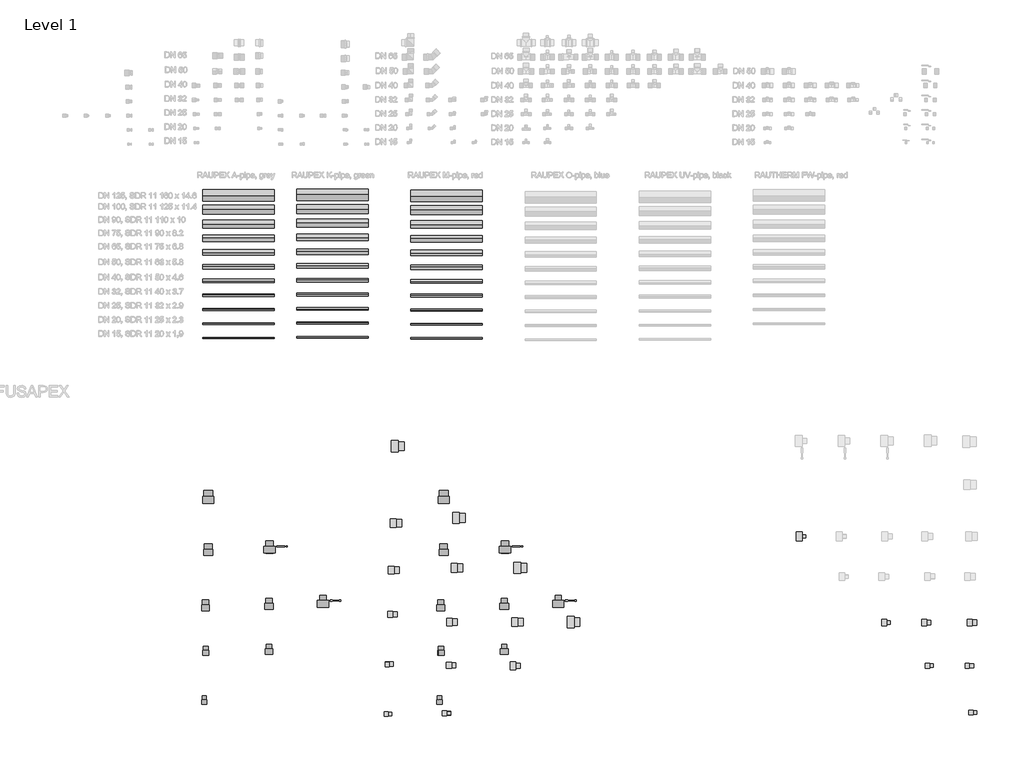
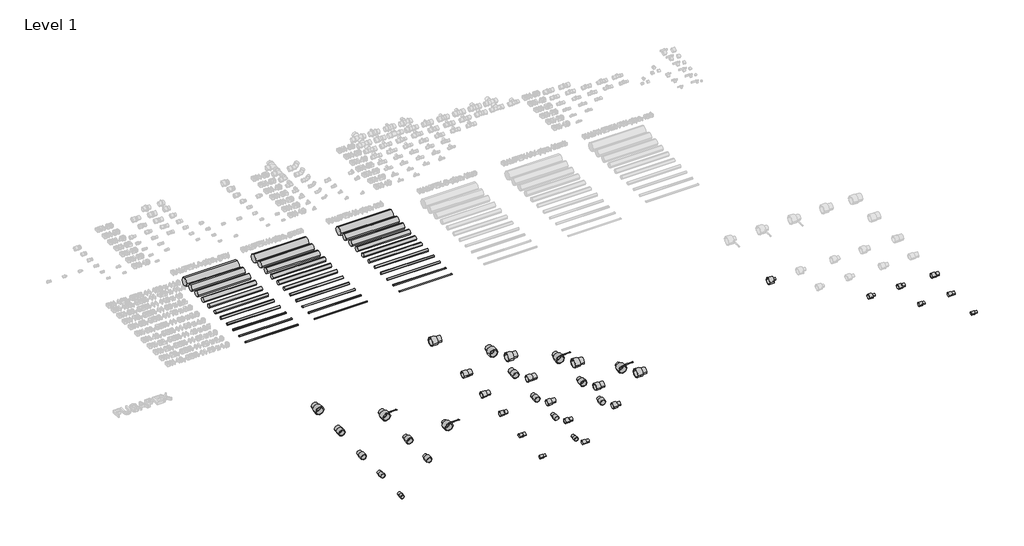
# One storey, part 1 of 16: 40 pipe fittings, 33 pipe segments.
"""IFC4 building model written with IfcOpenShell, lengths in millimetres."""

from ifc_helpers import new_model, si_unit, point, frame, frame_2d, origin, place, context, project, spatial, circle_curve, trimmed, segment, composite_curve, outline, extrude, transform, mapped, element, save
from components import r_3b0af651, r_4d965f74, r_cca8e6ca, r_d1f8ca76, r_697b0825, r_8749512e, r_a358cfd3, r_4a3a0498, r_e99f7dad, r_0a45e2a9, r_4e7d908a, r_6692c43e, r_07258758, r_f4d68c18

model = new_model("IFC4")

# Units and contexts
model_context = context("Model", 3, world=origin())
ifc_project = project(units=[si_unit("LENGTHUNIT", "METRE", prefix="MILLI")], contexts=[model_context])

# Site, building, storey
site = spatial("IfcSite", under=ifc_project)
building = spatial("IfcBuilding", under=site)
storey = spatial("IfcBuildingStorey", under=building, Name="Level 1", Elevation=0.0)

# Pipe fittings
placement = place(None, origin())
r_shape = r_3b0af651(model_context)
element("IfcPipeFitting", 1, ObjectType="FUSAPEX reducer for T-Piece : R", at=placement, inside=storey, context=model_context, shape_type="MappedRepresentation", body=[
    mapped(r_shape, transform((11613.2068187, -7375.7319843, 0.0), x_axis=(0.0, 1.0, 0.0), y_axis=(-1.0, 0.0, 0.0), z_axis=(0.0, 0.0, 1.0))),
])
element("IfcPipeFitting", 2, ObjectType="FUSAPEX reducer for T-Piece : R", at=placement, inside=storey, context=model_context, shape_type="MappedRepresentation", body=[
    mapped(r_shape, transform((14913.2068187, -7375.7319843, 0.0), x_axis=(0.0, 1.0, 0.0), y_axis=(-1.0, 0.0, 0.0), z_axis=(0.0, 0.0, 1.0))),
])
element("IfcPipeFitting", 3, ObjectType="FUSAPEX reducer for T-Piece : R", at=placement, inside=storey, context=model_context, shape_type="MappedRepresentation", body=[
    mapped(r_shape, transform((15011.2068187, -7565.7319843, 0.0), x_axis=(1.0, 0.0, 0.0), y_axis=(0.0, 1.0, 0.0), z_axis=(0.0, 0.0, 1.0))),
])
element("IfcPipeFitting", 4, ObjectType="FUSAPEX reducer for T-Piece : R", at=placement, inside=storey, context=model_context, shape_type="MappedRepresentation", body=[
    mapped(r_shape, transform((14210.3595402, -6877.3095627, 0.0), x_axis=(1.0, 0.0, 0.0), y_axis=(0.0, 1.0, 0.0), z_axis=(0.0, 0.0, 1.0))),
])
r_2_shape = r_4d965f74(model_context)
element("IfcPipeFitting", 5, ObjectType="FUSAPEX reducer for T-Piece : R", at=placement, inside=storey, context=model_context, shape_type="MappedRepresentation", body=[
    mapped(r_2_shape, transform((11634.5063472, -6684.2472313, 0.0), x_axis=(0.0, 1.0, 0.0), y_axis=(-1.0, 0.0, 0.0), z_axis=(0.0, 0.0, 1.0))),
])
element("IfcPipeFitting", 6, ObjectType="FUSAPEX reducer for T-Piece : R", at=placement, inside=storey, context=model_context, shape_type="MappedRepresentation", body=[
    mapped(r_2_shape, transform((14934.5063472, -6684.2472313, 0.0), x_axis=(0.0, 1.0, 0.0), y_axis=(-1.0, 0.0, 0.0), z_axis=(0.0, 0.0, 1.0))),
])
element("IfcPipeFitting", 7, ObjectType="FUSAPEX reducer for T-Piece : R", at=placement, inside=storey, context=model_context, shape_type="MappedRepresentation", body=[
    mapped(r_2_shape, transform((15081.5063472, -6892.2472313, 0.0), x_axis=(1.0, 0.0, 0.0), y_axis=(0.0, 1.0, 0.0), z_axis=(0.0, 0.0, 1.0))),
])
element("IfcPipeFitting", 8, ObjectType="FUSAPEX reducer for T-Piece : R", at=placement, inside=storey, context=model_context, shape_type="MappedRepresentation", body=[
    mapped(r_2_shape, transform((14259.3595402, -6177.3095627, 0.0), x_axis=(1.0, 0.0, 0.0), y_axis=(0.0, 1.0, 0.0), z_axis=(0.0, 0.0, 1.0))),
])
r_3_shape = r_cca8e6ca(model_context)
element("IfcPipeFitting", 9, ObjectType="FUSAPEX reducer for T-Piece : R", at=placement, inside=storey, context=model_context, shape_type="MappedRepresentation", body=[
    mapped(r_3_shape, transform((12520.8913534, -6660.8870027, 0.0), x_axis=(0.0, 1.0, 0.0), y_axis=(-1.0, 0.0, 0.0), z_axis=(0.0, 0.0, 1.0))),
])
element("IfcPipeFitting", 10, ObjectType="FUSAPEX reducer for T-Piece : R", at=placement, inside=storey, context=model_context, shape_type="MappedRepresentation", body=[
    mapped(r_3_shape, transform((15820.8913534, -6660.8870027, 0.0), x_axis=(0.0, 1.0, 0.0), y_axis=(-1.0, 0.0, 0.0), z_axis=(0.0, 0.0, 1.0))),
])
element("IfcPipeFitting", 11, ObjectType="FUSAPEX reducer for T-Piece : R", at=placement, inside=storey, context=model_context, shape_type="MappedRepresentation", body=[
    mapped(r_3_shape, transform((15983.8913534, -6899.8870027, 0.0), x_axis=(1.0, 0.0, 0.0), y_axis=(0.0, 1.0, 0.0), z_axis=(0.0, 0.0, 1.0))),
])
r_4_shape = r_d1f8ca76(model_context)
element("IfcPipeFitting", 12, ObjectType="FUSAPEX reducer for T-Piece : R", at=placement, inside=storey, context=model_context, shape_type="MappedRepresentation", body=[
    mapped(r_4_shape, transform((11630.5649543, -6046.7319843, 0.0), x_axis=(0.0, 1.0, 0.0), y_axis=(-1.0, 0.0, 0.0), z_axis=(0.0, 0.0, 1.0))),
])
element("IfcPipeFitting", 13, ObjectType="FUSAPEX reducer for T-Piece : R", at=placement, inside=storey, context=model_context, shape_type="MappedRepresentation", body=[
    mapped(r_4_shape, transform((14930.5649543, -6046.7319843, 0.0), x_axis=(0.0, 1.0, 0.0), y_axis=(-1.0, 0.0, 0.0), z_axis=(0.0, 0.0, 1.0))),
])
element("IfcPipeFitting", 14, ObjectType="FUSAPEX reducer for T-Piece : R", at=placement, inside=storey, context=model_context, shape_type="MappedRepresentation", body=[
    mapped(r_4_shape, transform((15093.5649543, -6285.7319843, 0.0), x_axis=(1.0, 0.0, 0.0), y_axis=(0.0, 1.0, 0.0), z_axis=(0.0, 0.0, 1.0))),
])
element("IfcPipeFitting", 15, ObjectType="FUSAPEX reducer for T-Piece : R", at=placement, inside=storey, context=model_context, shape_type="MappedRepresentation", body=[
    mapped(r_4_shape, transform((14275.3595402, -5557.3095627, 0.0), x_axis=(1.0, 0.0, 0.0), y_axis=(0.0, 1.0, 0.0), z_axis=(0.0, 0.0, 1.0))),
])
r_5_shape = r_697b0825(model_context)
element("IfcPipeFitting", 16, ObjectType="FUSAPEX reducer for T-Piece : R", at=placement, inside=storey, context=model_context, shape_type="MappedRepresentation", body=[
    mapped(r_5_shape, transform((12520.2194418, -6025.7319843, 0.0), x_axis=(0.0, 1.0, 0.0), y_axis=(-1.0, 0.0, 0.0), z_axis=(0.0, 0.0, 1.0))),
])
element("IfcPipeFitting", 17, ObjectType="FUSAPEX reducer for T-Piece : R", at=placement, inside=storey, context=model_context, shape_type="MappedRepresentation", body=[
    mapped(r_5_shape, transform((15820.2194418, -6025.7319843, 0.0), x_axis=(0.0, 1.0, 0.0), y_axis=(-1.0, 0.0, 0.0), z_axis=(0.0, 0.0, 1.0))),
])
r_6_shape = r_8749512e(model_context)
element("IfcPipeFitting", 18, ObjectType="FUSAPEX reducer for T-Piece : R", at=placement, inside=storey, context=model_context, shape_type="MappedRepresentation", body=[
    mapped(r_6_shape, transform((13278.3151183, -5984.1319843, 0.0), x_axis=(0.0, 1.0, 0.0), y_axis=(-1.0, 0.0, 0.0), z_axis=(0.0, 0.0, 1.0))),
])
element("IfcPipeFitting", 19, ObjectType="FUSAPEX reducer for T-Piece : R", at=placement, inside=storey, context=model_context, shape_type="MappedRepresentation", body=[
    mapped(r_6_shape, transform((16578.3151183, -5984.1319843, 0.0), x_axis=(0.0, 1.0, 0.0), y_axis=(-1.0, 0.0, 0.0), z_axis=(0.0, 0.0, 1.0))),
])
r_7_shape = r_a358cfd3(model_context)
element("IfcPipeFitting", 20, ObjectType="FUSAPEX reducer for T-Piece : R", at=placement, inside=storey, context=model_context, shape_type="MappedRepresentation", body=[
    mapped(r_7_shape, transform((11670.5649543, -5265.7319843, 0.0), x_axis=(0.0, 1.0, 0.0), y_axis=(-1.0, 0.0, 0.0), z_axis=(0.0, 0.0, 1.0))),
])
element("IfcPipeFitting", 21, ObjectType="FUSAPEX reducer for T-Piece : R", at=placement, inside=storey, context=model_context, shape_type="MappedRepresentation", body=[
    mapped(r_7_shape, transform((14970.5649543, -5265.7319843, 0.0), x_axis=(0.0, 1.0, 0.0), y_axis=(-1.0, 0.0, 0.0), z_axis=(0.0, 0.0, 1.0))),
])
element("IfcPipeFitting", 22, ObjectType="FUSAPEX reducer for T-Piece : R", at=placement, inside=storey, context=model_context, shape_type="MappedRepresentation", body=[
    mapped(r_7_shape, transform((16011.2194418, -6285.7319843, 0.0), x_axis=(1.0, 0.0, 0.0), y_axis=(0.0, 1.0, 0.0), z_axis=(0.0, 0.0, 1.0))),
])
element("IfcPipeFitting", 23, ObjectType="FUSAPEX reducer for T-Piece : R", at=placement, inside=storey, context=model_context, shape_type="MappedRepresentation", body=[
    mapped(r_7_shape, transform((15161.5649543, -5525.7319843, 0.0), x_axis=(1.0, 0.0, 0.0), y_axis=(0.0, 1.0, 0.0), z_axis=(0.0, 0.0, 1.0))),
])
element("IfcPipeFitting", 24, ObjectType="FUSAPEX reducer for T-Piece : R", at=placement, inside=storey, context=model_context, shape_type="MappedRepresentation", body=[
    mapped(r_7_shape, transform((14303.3595402, -4897.3095627, 0.0), x_axis=(1.0, 0.0, 0.0), y_axis=(0.0, 1.0, 0.0), z_axis=(0.0, 0.0, 1.0))),
])
r_8_shape = r_4a3a0498(model_context)
element("IfcPipeFitting", 25, ObjectType="FUSAPEX reducer for T-Piece : R", at=placement, inside=storey, context=model_context, shape_type="MappedRepresentation", body=[
    mapped(r_8_shape, transform((12530.5649543, -5224.1319843, 0.0), x_axis=(0.0, 1.0, 0.0), y_axis=(-1.0, 0.0, 0.0), z_axis=(0.0, 0.0, 1.0))),
])
element("IfcPipeFitting", 26, ObjectType="FUSAPEX reducer for T-Piece : R", at=placement, inside=storey, context=model_context, shape_type="MappedRepresentation", body=[
    mapped(r_8_shape, transform((15830.5649543, -5224.1319843, 0.0), x_axis=(0.0, 1.0, 0.0), y_axis=(-1.0, 0.0, 0.0), z_axis=(0.0, 0.0, 1.0))),
])
r_9_shape = r_e99f7dad(model_context)
element("IfcPipeFitting", 27, ObjectType="FUSAPEX reducer for T-Piece : R", at=placement, inside=storey, context=model_context, shape_type="MappedRepresentation", body=[
    mapped(r_9_shape, transform((11670.5649543, -4524.1319843, 0.0), x_axis=(0.0, 1.0, 0.0), y_axis=(-1.0, 0.0, 0.0), z_axis=(0.0, 0.0, 1.0))),
])
element("IfcPipeFitting", 28, ObjectType="FUSAPEX reducer for T-Piece : R", at=placement, inside=storey, context=model_context, shape_type="MappedRepresentation", body=[
    mapped(r_9_shape, transform((14970.5649543, -4524.1319843, 0.0), x_axis=(0.0, 1.0, 0.0), y_axis=(-1.0, 0.0, 0.0), z_axis=(0.0, 0.0, 1.0))),
])
element("IfcPipeFitting", 29, ObjectType="FUSAPEX reducer for T-Piece : R", at=placement, inside=storey, context=model_context, shape_type="MappedRepresentation", body=[
    mapped(r_9_shape, transform((16798.6151183, -6285.7319843, 0.0), x_axis=(1.0, 0.0, 0.0), y_axis=(0.0, 1.0, 0.0), z_axis=(0.0, 0.0, 1.0))),
])
element("IfcPipeFitting", 30, ObjectType="FUSAPEX reducer for T-Piece : R", at=placement, inside=storey, context=model_context, shape_type="MappedRepresentation", body=[
    mapped(r_9_shape, transform((16050.8649543, -5525.7319843, 0.0), x_axis=(1.0, 0.0, 0.0), y_axis=(0.0, 1.0, 0.0), z_axis=(0.0, 0.0, 1.0))),
])
element("IfcPipeFitting", 31, ObjectType="FUSAPEX reducer for T-Piece : R", at=placement, inside=storey, context=model_context, shape_type="MappedRepresentation", body=[
    mapped(r_9_shape, transform((15190.8649543, -4825.7319843, 0.0), x_axis=(1.0, 0.0, 0.0), y_axis=(0.0, 1.0, 0.0), z_axis=(0.0, 0.0, 1.0))),
])
element("IfcPipeFitting", 32, ObjectType="FUSAPEX reducer for T-Piece : R", at=placement, inside=storey, context=model_context, shape_type="MappedRepresentation", body=[
    mapped(r_9_shape, transform((14332.6595402, -3817.3095627, 0.0), x_axis=(1.0, 0.0, 0.0), y_axis=(0.0, 1.0, 0.0), z_axis=(0.0, 0.0, 1.0))),
])
r_10_shape = r_0a45e2a9(model_context)
element("IfcPipeFitting", 33, ObjectType="FUSAPEX reducer for T-Piece : R", at=placement, inside=storey, context=model_context, shape_type="MappedRepresentation", body=[
    mapped(r_10_shape, transform((14195.8595402, -7577.3095627, 0.0), x_axis=(1.0, 0.0, 0.0), y_axis=(0.0, 1.0, 0.0), z_axis=(0.0, 0.0, 1.0))),
])
element("IfcPipeFitting", 34, ObjectType="FUSAPEX reducer : R", at=placement, inside=storey, context=model_context, shape_type="MappedRepresentation", body=[
    mapped(r_10_shape, transform((22393.3151183, -7556.0259818, 0.0), x_axis=(1.0, 0.0, 0.0), y_axis=(0.0, 1.0, 0.0), z_axis=(0.0, 0.0, 1.0))),
])
r_11_shape = r_4e7d908a(model_context)
element("IfcPipeFitting", 35, ObjectType="FUSAPEX reducer : R", at=placement, inside=storey, context=model_context, shape_type="MappedRepresentation", body=[
    mapped(r_11_shape, transform((21783.3151183, -6899.3040649, 0.0), x_axis=(1.0, 0.0, 0.0), y_axis=(0.0, 1.0, 0.0), z_axis=(0.0, 0.0, 1.0))),
])
element("IfcPipeFitting", 36, ObjectType="FUSAPEX reducer : R", at=placement, inside=storey, context=model_context, shape_type="MappedRepresentation", body=[
    mapped(r_shape, transform((22343.3151183, -6899.3040649, 0.0), x_axis=(1.0, 0.0, 0.0), y_axis=(0.0, 1.0, 0.0), z_axis=(0.0, 0.0, 1.0))),
])
r_12_shape = r_6692c43e(model_context)
element("IfcPipeFitting", 37, ObjectType="FUSAPEX reducer : R", at=placement, inside=storey, context=model_context, shape_type="MappedRepresentation", body=[
    mapped(r_12_shape, transform((21185.8004526, -6292.9297293, 0.0), x_axis=(1.0, 0.0, 0.0), y_axis=(0.0, 1.0, 0.0), z_axis=(0.0, 0.0, 1.0))),
])
r_13_shape = r_07258758(model_context)
element("IfcPipeFitting", 38, ObjectType="FUSAPEX reducer : R", at=placement, inside=storey, context=model_context, shape_type="MappedRepresentation", body=[
    mapped(r_13_shape, transform((21745.8004526, -6292.9297293, 0.0), x_axis=(1.0, 0.0, 0.0), y_axis=(0.0, 1.0, 0.0), z_axis=(0.0, 0.0, 1.0))),
])
element("IfcPipeFitting", 39, ObjectType="FUSAPEX reducer : R", at=placement, inside=storey, context=model_context, shape_type="MappedRepresentation", body=[
    mapped(r_2_shape, transform((22385.8004526, -6292.9297293, 0.0), x_axis=(1.0, 0.0, 0.0), y_axis=(0.0, 1.0, 0.0), z_axis=(0.0, 0.0, 1.0))),
])
r_14_shape = r_f4d68c18(model_context)
element("IfcPipeFitting", 40, ObjectType="FUSAPEX reducer : R", at=placement, inside=storey, context=model_context, shape_type="MappedRepresentation", body=[
    mapped(r_14_shape, transform((19996.3378467, -5084.3927472, 0.0), x_axis=(1.0, 0.0, 0.0), y_axis=(0.0, 1.0, 0.0), z_axis=(0.0, 0.0, 1.0))),
])

# Pipe segments
element("IfcPipeSegment", 41, ObjectType="RAUPEX-A Rohr, SDR11, grau bar", at=placement, inside=storey, context=model_context, shape_type="SweptSolid", body=[
    extrude(outline(composite_curve([segment(trimmed(circle_curve(frame_2d((-2300.9373535, 0.0)), 10.0), [point((-2310.9373535, 0.0))], [point((-2300.9373535, 10.0))], False, "CARTESIAN"), True, "CONTINUOUS"), segment(trimmed(circle_curve(frame_2d((-2300.9373535, 0.0)), 10.0), [point((-2300.9373535, 10.0))], [point((-2290.9373535, 0.0))], False, "CARTESIAN"), True, "CONTINUOUS"), segment(trimmed(circle_curve(frame_2d((-2300.9373535, 0.0)), 10.0), [point((-2290.9373535, 0.0))], [point((-2300.9373535, -10.0))], False, "CARTESIAN"), True, "CONTINUOUS"), segment(trimmed(circle_curve(frame_2d((-2300.9373535, 0.0)), 10.0), [point((-2300.9373535, -10.0))], [point((-2310.9373535, 0.0))], False, "CARTESIAN"), True, "CONTINUOUS")], self_intersect=False)), frame((11592.3595402, 0.0, 0.0), z_axis=(1.0, 0.0, 0.0), x_axis=(0.0, 1.0, 0.0)), (0.0, 0.0, 1.0), 1000.0),
])
element("IfcPipeSegment", 42, ObjectType="RAUPEX-A Rohr, SDR11, grau bar", at=placement, inside=storey, context=model_context, shape_type="SweptSolid", body=[
    extrude(outline(composite_curve([segment(trimmed(circle_curve(frame_2d((-2100.9373535, 0.0)), 12.5), [point((-2113.4373535, 0.0))], [point((-2100.9373535, 12.5))], False, "CARTESIAN"), True, "CONTINUOUS"), segment(trimmed(circle_curve(frame_2d((-2100.9373535, 0.0)), 12.5), [point((-2100.9373535, 12.5))], [point((-2088.4373535, 0.0))], False, "CARTESIAN"), True, "CONTINUOUS"), segment(trimmed(circle_curve(frame_2d((-2100.9373535, 0.0)), 12.5), [point((-2088.4373535, 0.0))], [point((-2100.9373535, -12.5))], False, "CARTESIAN"), True, "CONTINUOUS"), segment(trimmed(circle_curve(frame_2d((-2100.9373535, 0.0)), 12.5), [point((-2100.9373535, -12.5))], [point((-2113.4373535, 0.0))], False, "CARTESIAN"), True, "CONTINUOUS")], self_intersect=False)), frame((11592.3595402, 0.0, 0.0), z_axis=(1.0, 0.0, 0.0), x_axis=(0.0, 1.0, 0.0)), (0.0, 0.0, 1.0), 1000.0),
])
element("IfcPipeSegment", 43, ObjectType="RAUPEX-A Rohr, SDR11, grau bar", at=placement, inside=storey, context=model_context, shape_type="SweptSolid", body=[
    extrude(outline(composite_curve([segment(trimmed(circle_curve(frame_2d((-1900.9373535, 0.0)), 16.0), [point((-1916.9373535, 0.0))], [point((-1900.9373535, 16.0))], False, "CARTESIAN"), True, "CONTINUOUS"), segment(trimmed(circle_curve(frame_2d((-1900.9373535, 0.0)), 16.0), [point((-1900.9373535, 16.0))], [point((-1884.9373535, 0.0))], False, "CARTESIAN"), True, "CONTINUOUS"), segment(trimmed(circle_curve(frame_2d((-1900.9373535, 0.0)), 16.0), [point((-1884.9373535, 0.0))], [point((-1900.9373535, -16.0))], False, "CARTESIAN"), True, "CONTINUOUS"), segment(trimmed(circle_curve(frame_2d((-1900.9373535, 0.0)), 16.0), [point((-1900.9373535, -16.0))], [point((-1916.9373535, 0.0))], False, "CARTESIAN"), True, "CONTINUOUS")], self_intersect=False)), frame((11592.3595402, 0.0, 0.0), z_axis=(1.0, 0.0, 0.0), x_axis=(0.0, 1.0, 0.0)), (0.0, 0.0, 1.0), 1000.0),
])
element("IfcPipeSegment", 44, ObjectType="RAUPEX-A Rohr, SDR11, grau bar", at=placement, inside=storey, context=model_context, shape_type="SweptSolid", body=[
    extrude(outline(composite_curve([segment(trimmed(circle_curve(frame_2d((-1700.9373535, 0.0)), 20.0), [point((-1720.9373535, 0.0))], [point((-1700.9373535, 20.0))], False, "CARTESIAN"), True, "CONTINUOUS"), segment(trimmed(circle_curve(frame_2d((-1700.9373535, 0.0)), 20.0), [point((-1700.9373535, 20.0))], [point((-1680.9373535, 0.0))], False, "CARTESIAN"), True, "CONTINUOUS"), segment(trimmed(circle_curve(frame_2d((-1700.9373535, 0.0)), 20.0), [point((-1680.9373535, 0.0))], [point((-1700.9373535, -20.0))], False, "CARTESIAN"), True, "CONTINUOUS"), segment(trimmed(circle_curve(frame_2d((-1700.9373535, 0.0)), 20.0), [point((-1700.9373535, -20.0))], [point((-1720.9373535, 0.0))], False, "CARTESIAN"), True, "CONTINUOUS")], self_intersect=False)), frame((11592.3595402, 0.0, 0.0), z_axis=(1.0, 0.0, 0.0), x_axis=(0.0, 1.0, 0.0)), (0.0, 0.0, 1.0), 1000.0),
])
element("IfcPipeSegment", 45, ObjectType="RAUPEX-A Rohr, SDR11, grau bar", at=placement, inside=storey, context=model_context, shape_type="SweptSolid", body=[
    extrude(outline(composite_curve([segment(trimmed(circle_curve(frame_2d((-1500.9373535, 0.0)), 25.0), [point((-1525.9373535, 0.0))], [point((-1500.9373535, 25.0))], False, "CARTESIAN"), True, "CONTINUOUS"), segment(trimmed(circle_curve(frame_2d((-1500.9373535, 0.0)), 25.0), [point((-1500.9373535, 25.0))], [point((-1475.9373535, 0.0))], False, "CARTESIAN"), True, "CONTINUOUS"), segment(trimmed(circle_curve(frame_2d((-1500.9373535, 0.0)), 25.0), [point((-1475.9373535, 0.0))], [point((-1500.9373535, -25.0))], False, "CARTESIAN"), True, "CONTINUOUS"), segment(trimmed(circle_curve(frame_2d((-1500.9373535, 0.0)), 25.0), [point((-1500.9373535, -25.0))], [point((-1525.9373535, 0.0))], False, "CARTESIAN"), True, "CONTINUOUS")], self_intersect=False)), frame((11592.3595402, 0.0, 0.0), z_axis=(1.0, 0.0, 0.0), x_axis=(0.0, 1.0, 0.0)), (0.0, 0.0, 1.0), 1000.0),
])
element("IfcPipeSegment", 46, ObjectType="RAUPEX-A Rohr, SDR11, grau bar", at=placement, inside=storey, context=model_context, shape_type="SweptSolid", body=[
    extrude(outline(composite_curve([segment(trimmed(circle_curve(frame_2d((-1300.9373535, 0.0)), 31.5), [point((-1332.4373535, 0.0))], [point((-1300.9373535, 31.5))], False, "CARTESIAN"), True, "CONTINUOUS"), segment(trimmed(circle_curve(frame_2d((-1300.9373535, 0.0)), 31.5), [point((-1300.9373535, 31.5))], [point((-1269.4373535, 0.0))], False, "CARTESIAN"), True, "CONTINUOUS"), segment(trimmed(circle_curve(frame_2d((-1300.9373535, 0.0)), 31.5), [point((-1269.4373535, 0.0))], [point((-1300.9373535, -31.5))], False, "CARTESIAN"), True, "CONTINUOUS"), segment(trimmed(circle_curve(frame_2d((-1300.9373535, 0.0)), 31.5), [point((-1300.9373535, -31.5))], [point((-1332.4373535, 0.0))], False, "CARTESIAN"), True, "CONTINUOUS")], self_intersect=False)), frame((11592.3595402, 0.0, 0.0), z_axis=(1.0, 0.0, 0.0), x_axis=(0.0, 1.0, 0.0)), (0.0, 0.0, 1.0), 1000.0),
])
element("IfcPipeSegment", 47, ObjectType="RAUPEX-A Rohr, SDR11, grau bar", at=placement, inside=storey, context=model_context, shape_type="SweptSolid", body=[
    extrude(outline(composite_curve([segment(trimmed(circle_curve(frame_2d((-1100.9373535, 0.0)), 37.5), [point((-1138.4373535, 0.0))], [point((-1100.9373535, 37.5))], False, "CARTESIAN"), True, "CONTINUOUS"), segment(trimmed(circle_curve(frame_2d((-1100.9373535, 0.0)), 37.5), [point((-1100.9373535, 37.5))], [point((-1063.4373535, 0.0))], False, "CARTESIAN"), True, "CONTINUOUS"), segment(trimmed(circle_curve(frame_2d((-1100.9373535, 0.0)), 37.5), [point((-1063.4373535, 0.0))], [point((-1100.9373535, -37.5))], False, "CARTESIAN"), True, "CONTINUOUS"), segment(trimmed(circle_curve(frame_2d((-1100.9373535, 0.0)), 37.5), [point((-1100.9373535, -37.5))], [point((-1138.4373535, 0.0))], False, "CARTESIAN"), True, "CONTINUOUS")], self_intersect=False)), frame((11592.3595402, 0.0, 0.0), z_axis=(1.0, 0.0, 0.0), x_axis=(0.0, 1.0, 0.0)), (0.0, 0.0, 1.0), 1000.0),
])
element("IfcPipeSegment", 48, ObjectType="RAUPEX-A Rohr, SDR11, grau bar", at=placement, inside=storey, context=model_context, shape_type="SweptSolid", body=[
    extrude(outline(composite_curve([segment(trimmed(circle_curve(frame_2d((-900.9373535, 0.0)), 45.0), [point((-945.9373535, 0.0))], [point((-900.9373535, 45.0))], False, "CARTESIAN"), True, "CONTINUOUS"), segment(trimmed(circle_curve(frame_2d((-900.9373535, 0.0)), 45.0), [point((-900.9373535, 45.0))], [point((-855.9373535, 0.0))], False, "CARTESIAN"), True, "CONTINUOUS"), segment(trimmed(circle_curve(frame_2d((-900.9373535, 0.0)), 45.0), [point((-855.9373535, 0.0))], [point((-900.9373535, -45.0))], False, "CARTESIAN"), True, "CONTINUOUS"), segment(trimmed(circle_curve(frame_2d((-900.9373535, 0.0)), 45.0), [point((-900.9373535, -45.0))], [point((-945.9373535, 0.0))], False, "CARTESIAN"), True, "CONTINUOUS")], self_intersect=False)), frame((11592.3595402, 0.0, 0.0), z_axis=(1.0, 0.0, 0.0), x_axis=(0.0, 1.0, 0.0)), (0.0, 0.0, 1.0), 1000.0),
])
element("IfcPipeSegment", 49, ObjectType="RAUPEX-A Rohr, SDR11, grau bar", at=placement, inside=storey, context=model_context, shape_type="SweptSolid", body=[
    extrude(outline(composite_curve([segment(trimmed(circle_curve(frame_2d((-700.9373535, 0.0)), 55.0), [point((-755.9373535, 0.0))], [point((-700.9373535, 55.0))], False, "CARTESIAN"), True, "CONTINUOUS"), segment(trimmed(circle_curve(frame_2d((-700.9373535, 0.0)), 55.0), [point((-700.9373535, 55.0))], [point((-645.9373535, 0.0))], False, "CARTESIAN"), True, "CONTINUOUS"), segment(trimmed(circle_curve(frame_2d((-700.9373535, 0.0)), 55.0), [point((-645.9373535, 0.0))], [point((-700.9373535, -55.0))], False, "CARTESIAN"), True, "CONTINUOUS"), segment(trimmed(circle_curve(frame_2d((-700.9373535, 0.0)), 55.0), [point((-700.9373535, -55.0))], [point((-755.9373535, 0.0))], False, "CARTESIAN"), True, "CONTINUOUS")], self_intersect=False)), frame((11592.3595402, 0.0, 0.0), z_axis=(1.0, 0.0, 0.0), x_axis=(0.0, 1.0, 0.0)), (0.0, 0.0, 1.0), 1000.0),
])
element("IfcPipeSegment", 50, ObjectType="RAUPEX-A Rohr, SDR11, grau bar", at=placement, inside=storey, context=model_context, shape_type="SweptSolid", body=[
    extrude(outline(composite_curve([segment(trimmed(circle_curve(frame_2d((-500.9373535, 0.0)), 62.5), [point((-563.4373535, 0.0))], [point((-500.9373535, 62.5))], False, "CARTESIAN"), True, "CONTINUOUS"), segment(trimmed(circle_curve(frame_2d((-500.9373535, 0.0)), 62.5), [point((-500.9373535, 62.5))], [point((-438.4373535, 0.0))], False, "CARTESIAN"), True, "CONTINUOUS"), segment(trimmed(circle_curve(frame_2d((-500.9373535, 0.0)), 62.5), [point((-438.4373535, 0.0))], [point((-500.9373535, -62.5))], False, "CARTESIAN"), True, "CONTINUOUS"), segment(trimmed(circle_curve(frame_2d((-500.9373535, 0.0)), 62.5), [point((-500.9373535, -62.5))], [point((-563.4373535, 0.0))], False, "CARTESIAN"), True, "CONTINUOUS")], self_intersect=False)), frame((11592.3595402, 0.0, 0.0), z_axis=(1.0, 0.0, 0.0), x_axis=(0.0, 1.0, 0.0)), (0.0, 0.0, 1.0), 1000.0),
])
element("IfcPipeSegment", 51, ObjectType="RAUPEX-A Rohr, SDR11, grau bar", at=placement, inside=storey, context=model_context, shape_type="SweptSolid", body=[
    extrude(outline(composite_curve([segment(trimmed(circle_curve(frame_2d((-300.9373535, 0.0)), 80.0), [point((-380.9373535, 0.0))], [point((-300.9373535, 80.0))], False, "CARTESIAN"), True, "CONTINUOUS"), segment(trimmed(circle_curve(frame_2d((-300.9373535, 0.0)), 80.0), [point((-300.9373535, 80.0))], [point((-220.9373535, 0.0))], False, "CARTESIAN"), True, "CONTINUOUS"), segment(trimmed(circle_curve(frame_2d((-300.9373535, 0.0)), 80.0), [point((-220.9373535, 0.0))], [point((-300.9373535, -80.0))], False, "CARTESIAN"), True, "CONTINUOUS"), segment(trimmed(circle_curve(frame_2d((-300.9373535, 0.0)), 80.0), [point((-300.9373535, -80.0))], [point((-380.9373535, 0.0))], False, "CARTESIAN"), True, "CONTINUOUS")], self_intersect=False)), frame((11592.3595402, 0.0, 0.0), z_axis=(1.0, 0.0, 0.0), x_axis=(0.0, 1.0, 0.0)), (0.0, 0.0, 1.0), 1000.0),
])
element("IfcPipeSegment", 52, ObjectType="RAUPEX-K Rohr, SDR11, grün bar", at=placement, inside=storey, context=model_context, shape_type="SweptSolid", body=[
    extrude(outline(composite_curve([segment(trimmed(circle_curve(frame_2d((-2290.9373535, 0.0)), 10.0), [point((-2300.9373535, 0.0))], [point((-2290.9373535, 10.0))], False, "CARTESIAN"), True, "CONTINUOUS"), segment(trimmed(circle_curve(frame_2d((-2290.9373535, 0.0)), 10.0), [point((-2290.9373535, 10.0))], [point((-2280.9373535, 0.0))], False, "CARTESIAN"), True, "CONTINUOUS"), segment(trimmed(circle_curve(frame_2d((-2290.9373535, 0.0)), 10.0), [point((-2280.9373535, 0.0))], [point((-2290.9373535, -10.0))], False, "CARTESIAN"), True, "CONTINUOUS"), segment(trimmed(circle_curve(frame_2d((-2290.9373535, 0.0)), 10.0), [point((-2290.9373535, -10.0))], [point((-2300.9373535, 0.0))], False, "CARTESIAN"), True, "CONTINUOUS")], self_intersect=False)), frame((12912.3595402, 0.0, 0.0), z_axis=(1.0, 0.0, 0.0), x_axis=(0.0, 1.0, 0.0)), (0.0, 0.0, 1.0), 1000.0),
])
element("IfcPipeSegment", 53, ObjectType="RAUPEX-K Rohr, SDR11, grün bar", at=placement, inside=storey, context=model_context, shape_type="SweptSolid", body=[
    extrude(outline(composite_curve([segment(trimmed(circle_curve(frame_2d((-2090.9373535, 0.0)), 12.5), [point((-2103.4373535, 0.0))], [point((-2090.9373535, 12.5))], False, "CARTESIAN"), True, "CONTINUOUS"), segment(trimmed(circle_curve(frame_2d((-2090.9373535, 0.0)), 12.5), [point((-2090.9373535, 12.5))], [point((-2078.4373535, 0.0))], False, "CARTESIAN"), True, "CONTINUOUS"), segment(trimmed(circle_curve(frame_2d((-2090.9373535, 0.0)), 12.5), [point((-2078.4373535, 0.0))], [point((-2090.9373535, -12.5))], False, "CARTESIAN"), True, "CONTINUOUS"), segment(trimmed(circle_curve(frame_2d((-2090.9373535, 0.0)), 12.5), [point((-2090.9373535, -12.5))], [point((-2103.4373535, 0.0))], False, "CARTESIAN"), True, "CONTINUOUS")], self_intersect=False)), frame((12912.3595402, 0.0, 0.0), z_axis=(1.0, 0.0, 0.0), x_axis=(0.0, 1.0, 0.0)), (0.0, 0.0, 1.0), 1000.0),
])
element("IfcPipeSegment", 54, ObjectType="RAUPEX-K Rohr, SDR11, grün bar", at=placement, inside=storey, context=model_context, shape_type="SweptSolid", body=[
    extrude(outline(composite_curve([segment(trimmed(circle_curve(frame_2d((-1890.9373535, 0.0)), 16.0), [point((-1906.9373535, 0.0))], [point((-1890.9373535, 16.0))], False, "CARTESIAN"), True, "CONTINUOUS"), segment(trimmed(circle_curve(frame_2d((-1890.9373535, 0.0)), 16.0), [point((-1890.9373535, 16.0))], [point((-1874.9373535, 0.0))], False, "CARTESIAN"), True, "CONTINUOUS"), segment(trimmed(circle_curve(frame_2d((-1890.9373535, 0.0)), 16.0), [point((-1874.9373535, 0.0))], [point((-1890.9373535, -16.0))], False, "CARTESIAN"), True, "CONTINUOUS"), segment(trimmed(circle_curve(frame_2d((-1890.9373535, 0.0)), 16.0), [point((-1890.9373535, -16.0))], [point((-1906.9373535, 0.0))], False, "CARTESIAN"), True, "CONTINUOUS")], self_intersect=False)), frame((12912.3595402, 0.0, 0.0), z_axis=(1.0, 0.0, 0.0), x_axis=(0.0, 1.0, 0.0)), (0.0, 0.0, 1.0), 1000.0),
])
element("IfcPipeSegment", 55, ObjectType="RAUPEX-K Rohr, SDR11, grün bar", at=placement, inside=storey, context=model_context, shape_type="SweptSolid", body=[
    extrude(outline(composite_curve([segment(trimmed(circle_curve(frame_2d((-1690.9373535, 0.0)), 20.0), [point((-1710.9373535, 0.0))], [point((-1690.9373535, 20.0))], False, "CARTESIAN"), True, "CONTINUOUS"), segment(trimmed(circle_curve(frame_2d((-1690.9373535, 0.0)), 20.0), [point((-1690.9373535, 20.0))], [point((-1670.9373535, 0.0))], False, "CARTESIAN"), True, "CONTINUOUS"), segment(trimmed(circle_curve(frame_2d((-1690.9373535, 0.0)), 20.0), [point((-1670.9373535, 0.0))], [point((-1690.9373535, -20.0))], False, "CARTESIAN"), True, "CONTINUOUS"), segment(trimmed(circle_curve(frame_2d((-1690.9373535, 0.0)), 20.0), [point((-1690.9373535, -20.0))], [point((-1710.9373535, 0.0))], False, "CARTESIAN"), True, "CONTINUOUS")], self_intersect=False)), frame((12912.3595402, 0.0, 0.0), z_axis=(1.0, 0.0, 0.0), x_axis=(0.0, 1.0, 0.0)), (0.0, 0.0, 1.0), 1000.0),
])
element("IfcPipeSegment", 56, ObjectType="RAUPEX-K Rohr, SDR11, grün bar", at=placement, inside=storey, context=model_context, shape_type="SweptSolid", body=[
    extrude(outline(composite_curve([segment(trimmed(circle_curve(frame_2d((-1490.9373535, 0.0)), 25.0), [point((-1515.9373535, 0.0))], [point((-1490.9373535, 25.0))], False, "CARTESIAN"), True, "CONTINUOUS"), segment(trimmed(circle_curve(frame_2d((-1490.9373535, 0.0)), 25.0), [point((-1490.9373535, 25.0))], [point((-1465.9373535, 0.0))], False, "CARTESIAN"), True, "CONTINUOUS"), segment(trimmed(circle_curve(frame_2d((-1490.9373535, 0.0)), 25.0), [point((-1465.9373535, 0.0))], [point((-1490.9373535, -25.0))], False, "CARTESIAN"), True, "CONTINUOUS"), segment(trimmed(circle_curve(frame_2d((-1490.9373535, 0.0)), 25.0), [point((-1490.9373535, -25.0))], [point((-1515.9373535, 0.0))], False, "CARTESIAN"), True, "CONTINUOUS")], self_intersect=False)), frame((12912.3595402, 0.0, 0.0), z_axis=(1.0, 0.0, 0.0), x_axis=(0.0, 1.0, 0.0)), (0.0, 0.0, 1.0), 1000.0),
])
element("IfcPipeSegment", 57, ObjectType="RAUPEX-K Rohr, SDR11, grün bar", at=placement, inside=storey, context=model_context, shape_type="SweptSolid", body=[
    extrude(outline(composite_curve([segment(trimmed(circle_curve(frame_2d((-1290.9373535, 0.0)), 31.5), [point((-1322.4373535, 0.0))], [point((-1290.9373535, 31.5))], False, "CARTESIAN"), True, "CONTINUOUS"), segment(trimmed(circle_curve(frame_2d((-1290.9373535, 0.0)), 31.5), [point((-1290.9373535, 31.5))], [point((-1259.4373535, 0.0))], False, "CARTESIAN"), True, "CONTINUOUS"), segment(trimmed(circle_curve(frame_2d((-1290.9373535, 0.0)), 31.5), [point((-1259.4373535, 0.0))], [point((-1290.9373535, -31.5))], False, "CARTESIAN"), True, "CONTINUOUS"), segment(trimmed(circle_curve(frame_2d((-1290.9373535, 0.0)), 31.5), [point((-1290.9373535, -31.5))], [point((-1322.4373535, 0.0))], False, "CARTESIAN"), True, "CONTINUOUS")], self_intersect=False)), frame((12912.3595402, 0.0, 0.0), z_axis=(1.0, 0.0, 0.0), x_axis=(0.0, 1.0, 0.0)), (0.0, 0.0, 1.0), 1000.0),
])
element("IfcPipeSegment", 58, ObjectType="RAUPEX-K Rohr, SDR11, grün bar", at=placement, inside=storey, context=model_context, shape_type="SweptSolid", body=[
    extrude(outline(composite_curve([segment(trimmed(circle_curve(frame_2d((-1090.9373535, 0.0)), 37.5), [point((-1128.4373535, 0.0))], [point((-1090.9373535, 37.5))], False, "CARTESIAN"), True, "CONTINUOUS"), segment(trimmed(circle_curve(frame_2d((-1090.9373535, 0.0)), 37.5), [point((-1090.9373535, 37.5))], [point((-1053.4373535, 0.0))], False, "CARTESIAN"), True, "CONTINUOUS"), segment(trimmed(circle_curve(frame_2d((-1090.9373535, 0.0)), 37.5), [point((-1053.4373535, 0.0))], [point((-1090.9373535, -37.5))], False, "CARTESIAN"), True, "CONTINUOUS"), segment(trimmed(circle_curve(frame_2d((-1090.9373535, 0.0)), 37.5), [point((-1090.9373535, -37.5))], [point((-1128.4373535, 0.0))], False, "CARTESIAN"), True, "CONTINUOUS")], self_intersect=False)), frame((12912.3595402, 0.0, 0.0), z_axis=(1.0, 0.0, 0.0), x_axis=(0.0, 1.0, 0.0)), (0.0, 0.0, 1.0), 1000.0),
])
element("IfcPipeSegment", 59, ObjectType="RAUPEX-K Rohr, SDR11, grün bar", at=placement, inside=storey, context=model_context, shape_type="SweptSolid", body=[
    extrude(outline(composite_curve([segment(trimmed(circle_curve(frame_2d((-890.9373535, 0.0)), 45.0), [point((-935.9373535, 0.0))], [point((-890.9373535, 45.0))], False, "CARTESIAN"), True, "CONTINUOUS"), segment(trimmed(circle_curve(frame_2d((-890.9373535, 0.0)), 45.0), [point((-890.9373535, 45.0))], [point((-845.9373535, 0.0))], False, "CARTESIAN"), True, "CONTINUOUS"), segment(trimmed(circle_curve(frame_2d((-890.9373535, 0.0)), 45.0), [point((-845.9373535, 0.0))], [point((-890.9373535, -45.0))], False, "CARTESIAN"), True, "CONTINUOUS"), segment(trimmed(circle_curve(frame_2d((-890.9373535, 0.0)), 45.0), [point((-890.9373535, -45.0))], [point((-935.9373535, 0.0))], False, "CARTESIAN"), True, "CONTINUOUS")], self_intersect=False)), frame((12912.3595402, 0.0, 0.0), z_axis=(1.0, 0.0, 0.0), x_axis=(0.0, 1.0, 0.0)), (0.0, 0.0, 1.0), 1000.0),
])
element("IfcPipeSegment", 60, ObjectType="RAUPEX-K Rohr, SDR11, grün bar", at=placement, inside=storey, context=model_context, shape_type="SweptSolid", body=[
    extrude(outline(composite_curve([segment(trimmed(circle_curve(frame_2d((-690.9373535, 0.0)), 55.0), [point((-745.9373535, 0.0))], [point((-690.9373535, 55.0))], False, "CARTESIAN"), True, "CONTINUOUS"), segment(trimmed(circle_curve(frame_2d((-690.9373535, 0.0)), 55.0), [point((-690.9373535, 55.0))], [point((-635.9373535, 0.0))], False, "CARTESIAN"), True, "CONTINUOUS"), segment(trimmed(circle_curve(frame_2d((-690.9373535, 0.0)), 55.0), [point((-635.9373535, 0.0))], [point((-690.9373535, -55.0))], False, "CARTESIAN"), True, "CONTINUOUS"), segment(trimmed(circle_curve(frame_2d((-690.9373535, 0.0)), 55.0), [point((-690.9373535, -55.0))], [point((-745.9373535, 0.0))], False, "CARTESIAN"), True, "CONTINUOUS")], self_intersect=False)), frame((12912.3595402, 0.0, 0.0), z_axis=(1.0, 0.0, 0.0), x_axis=(0.0, 1.0, 0.0)), (0.0, 0.0, 1.0), 1000.0),
])
element("IfcPipeSegment", 61, ObjectType="RAUPEX-K Rohr, SDR11, grün bar", at=placement, inside=storey, context=model_context, shape_type="SweptSolid", body=[
    extrude(outline(composite_curve([segment(trimmed(circle_curve(frame_2d((-490.9373535, 0.0)), 62.5), [point((-553.4373535, 0.0))], [point((-490.9373535, 62.5))], False, "CARTESIAN"), True, "CONTINUOUS"), segment(trimmed(circle_curve(frame_2d((-490.9373535, 0.0)), 62.5), [point((-490.9373535, 62.5))], [point((-428.4373535, 0.0))], False, "CARTESIAN"), True, "CONTINUOUS"), segment(trimmed(circle_curve(frame_2d((-490.9373535, 0.0)), 62.5), [point((-428.4373535, 0.0))], [point((-490.9373535, -62.5))], False, "CARTESIAN"), True, "CONTINUOUS"), segment(trimmed(circle_curve(frame_2d((-490.9373535, 0.0)), 62.5), [point((-490.9373535, -62.5))], [point((-553.4373535, 0.0))], False, "CARTESIAN"), True, "CONTINUOUS")], self_intersect=False)), frame((12912.3595402, 0.0, 0.0), z_axis=(1.0, 0.0, 0.0), x_axis=(0.0, 1.0, 0.0)), (0.0, 0.0, 1.0), 1000.0),
])
element("IfcPipeSegment", 62, ObjectType="RAUPEX-K Rohr, SDR11, grün bar", at=placement, inside=storey, context=model_context, shape_type="SweptSolid", body=[
    extrude(outline(composite_curve([segment(trimmed(circle_curve(frame_2d((-290.9373535, 0.0)), 80.0), [point((-370.9373535, 0.0))], [point((-290.9373535, 80.0))], False, "CARTESIAN"), True, "CONTINUOUS"), segment(trimmed(circle_curve(frame_2d((-290.9373535, 0.0)), 80.0), [point((-290.9373535, 80.0))], [point((-210.9373535, 0.0))], False, "CARTESIAN"), True, "CONTINUOUS"), segment(trimmed(circle_curve(frame_2d((-290.9373535, 0.0)), 80.0), [point((-210.9373535, 0.0))], [point((-290.9373535, -80.0))], False, "CARTESIAN"), True, "CONTINUOUS"), segment(trimmed(circle_curve(frame_2d((-290.9373535, 0.0)), 80.0), [point((-290.9373535, -80.0))], [point((-370.9373535, 0.0))], False, "CARTESIAN"), True, "CONTINUOUS")], self_intersect=False)), frame((12912.3595402, 0.0, 0.0), z_axis=(1.0, 0.0, 0.0), x_axis=(0.0, 1.0, 0.0)), (0.0, 0.0, 1.0), 1000.0),
])
element("IfcPipeSegment", 63, ObjectType="RAUPEX-M Rohr, SDR11, rot bar", at=placement, inside=storey, context=model_context, shape_type="SweptSolid", body=[
    extrude(outline(composite_curve([segment(trimmed(circle_curve(frame_2d((-2306.9373535, 0.0)), 10.0), [point((-2316.9373535, 0.0))], [point((-2306.9373535, 10.0))], False, "CARTESIAN"), True, "CONTINUOUS"), segment(trimmed(circle_curve(frame_2d((-2306.9373535, 0.0)), 10.0), [point((-2306.9373535, 10.0))], [point((-2296.9373535, 0.0))], False, "CARTESIAN"), True, "CONTINUOUS"), segment(trimmed(circle_curve(frame_2d((-2306.9373535, 0.0)), 10.0), [point((-2296.9373535, 0.0))], [point((-2306.9373535, -10.0))], False, "CARTESIAN"), True, "CONTINUOUS"), segment(trimmed(circle_curve(frame_2d((-2306.9373535, 0.0)), 10.0), [point((-2306.9373535, -10.0))], [point((-2316.9373535, 0.0))], False, "CARTESIAN"), True, "CONTINUOUS")], self_intersect=False)), frame((14512.3595402, 0.0, 0.0), z_axis=(1.0, 0.0, 0.0), x_axis=(0.0, 1.0, 0.0)), (0.0, 0.0, 1.0), 1000.0),
])
element("IfcPipeSegment", 64, ObjectType="RAUPEX-M Rohr, SDR11, rot bar", at=placement, inside=storey, context=model_context, shape_type="SweptSolid", body=[
    extrude(outline(composite_curve([segment(trimmed(circle_curve(frame_2d((-2106.9373535, 0.0)), 12.5), [point((-2119.4373535, 0.0))], [point((-2106.9373535, 12.5))], False, "CARTESIAN"), True, "CONTINUOUS"), segment(trimmed(circle_curve(frame_2d((-2106.9373535, 0.0)), 12.5), [point((-2106.9373535, 12.5))], [point((-2094.4373535, 0.0))], False, "CARTESIAN"), True, "CONTINUOUS"), segment(trimmed(circle_curve(frame_2d((-2106.9373535, 0.0)), 12.5), [point((-2094.4373535, 0.0))], [point((-2106.9373535, -12.5))], False, "CARTESIAN"), True, "CONTINUOUS"), segment(trimmed(circle_curve(frame_2d((-2106.9373535, 0.0)), 12.5), [point((-2106.9373535, -12.5))], [point((-2119.4373535, 0.0))], False, "CARTESIAN"), True, "CONTINUOUS")], self_intersect=False)), frame((14512.3595402, 0.0, 0.0), z_axis=(1.0, 0.0, 0.0), x_axis=(0.0, 1.0, 0.0)), (0.0, 0.0, 1.0), 1000.0),
])
element("IfcPipeSegment", 65, ObjectType="RAUPEX-M Rohr, SDR11, rot bar", at=placement, inside=storey, context=model_context, shape_type="SweptSolid", body=[
    extrude(outline(composite_curve([segment(trimmed(circle_curve(frame_2d((-1906.9373535, 0.0)), 16.0), [point((-1922.9373535, 0.0))], [point((-1906.9373535, 16.0))], False, "CARTESIAN"), True, "CONTINUOUS"), segment(trimmed(circle_curve(frame_2d((-1906.9373535, 0.0)), 16.0), [point((-1906.9373535, 16.0))], [point((-1890.9373535, 0.0))], False, "CARTESIAN"), True, "CONTINUOUS"), segment(trimmed(circle_curve(frame_2d((-1906.9373535, 0.0)), 16.0), [point((-1890.9373535, 0.0))], [point((-1906.9373535, -16.0))], False, "CARTESIAN"), True, "CONTINUOUS"), segment(trimmed(circle_curve(frame_2d((-1906.9373535, 0.0)), 16.0), [point((-1906.9373535, -16.0))], [point((-1922.9373535, 0.0))], False, "CARTESIAN"), True, "CONTINUOUS")], self_intersect=False)), frame((14512.3595402, 0.0, 0.0), z_axis=(1.0, 0.0, 0.0), x_axis=(0.0, 1.0, 0.0)), (0.0, 0.0, 1.0), 1000.0),
])
element("IfcPipeSegment", 66, ObjectType="RAUPEX-M Rohr, SDR11, rot bar", at=placement, inside=storey, context=model_context, shape_type="SweptSolid", body=[
    extrude(outline(composite_curve([segment(trimmed(circle_curve(frame_2d((-1706.9373535, 0.0)), 20.0), [point((-1726.9373535, 0.0))], [point((-1706.9373535, 20.0))], False, "CARTESIAN"), True, "CONTINUOUS"), segment(trimmed(circle_curve(frame_2d((-1706.9373535, 0.0)), 20.0), [point((-1706.9373535, 20.0))], [point((-1686.9373535, 0.0))], False, "CARTESIAN"), True, "CONTINUOUS"), segment(trimmed(circle_curve(frame_2d((-1706.9373535, 0.0)), 20.0), [point((-1686.9373535, 0.0))], [point((-1706.9373535, -20.0))], False, "CARTESIAN"), True, "CONTINUOUS"), segment(trimmed(circle_curve(frame_2d((-1706.9373535, 0.0)), 20.0), [point((-1706.9373535, -20.0))], [point((-1726.9373535, 0.0))], False, "CARTESIAN"), True, "CONTINUOUS")], self_intersect=False)), frame((14512.3595402, 0.0, 0.0), z_axis=(1.0, 0.0, 0.0), x_axis=(0.0, 1.0, 0.0)), (0.0, 0.0, 1.0), 1000.0),
])
element("IfcPipeSegment", 67, ObjectType="RAUPEX-M Rohr, SDR11, rot bar", at=placement, inside=storey, context=model_context, shape_type="SweptSolid", body=[
    extrude(outline(composite_curve([segment(trimmed(circle_curve(frame_2d((-1506.9373535, 0.0)), 25.0), [point((-1531.9373535, 0.0))], [point((-1506.9373535, 25.0))], False, "CARTESIAN"), True, "CONTINUOUS"), segment(trimmed(circle_curve(frame_2d((-1506.9373535, 0.0)), 25.0), [point((-1506.9373535, 25.0))], [point((-1481.9373535, 0.0))], False, "CARTESIAN"), True, "CONTINUOUS"), segment(trimmed(circle_curve(frame_2d((-1506.9373535, 0.0)), 25.0), [point((-1481.9373535, 0.0))], [point((-1506.9373535, -25.0))], False, "CARTESIAN"), True, "CONTINUOUS"), segment(trimmed(circle_curve(frame_2d((-1506.9373535, 0.0)), 25.0), [point((-1506.9373535, -25.0))], [point((-1531.9373535, 0.0))], False, "CARTESIAN"), True, "CONTINUOUS")], self_intersect=False)), frame((14512.3595402, 0.0, 0.0), z_axis=(1.0, 0.0, 0.0), x_axis=(0.0, 1.0, 0.0)), (0.0, 0.0, 1.0), 1000.0),
])
element("IfcPipeSegment", 68, ObjectType="RAUPEX-M Rohr, SDR11, rot bar", at=placement, inside=storey, context=model_context, shape_type="SweptSolid", body=[
    extrude(outline(composite_curve([segment(trimmed(circle_curve(frame_2d((-1306.9373535, 0.0)), 31.5), [point((-1338.4373535, 0.0))], [point((-1306.9373535, 31.5))], False, "CARTESIAN"), True, "CONTINUOUS"), segment(trimmed(circle_curve(frame_2d((-1306.9373535, 0.0)), 31.5), [point((-1306.9373535, 31.5))], [point((-1275.4373535, 0.0))], False, "CARTESIAN"), True, "CONTINUOUS"), segment(trimmed(circle_curve(frame_2d((-1306.9373535, 0.0)), 31.5), [point((-1275.4373535, 0.0))], [point((-1306.9373535, -31.5))], False, "CARTESIAN"), True, "CONTINUOUS"), segment(trimmed(circle_curve(frame_2d((-1306.9373535, 0.0)), 31.5), [point((-1306.9373535, -31.5))], [point((-1338.4373535, 0.0))], False, "CARTESIAN"), True, "CONTINUOUS")], self_intersect=False)), frame((14512.3595402, 0.0, 0.0), z_axis=(1.0, 0.0, 0.0), x_axis=(0.0, 1.0, 0.0)), (0.0, 0.0, 1.0), 1000.0),
])
element("IfcPipeSegment", 69, ObjectType="RAUPEX-M Rohr, SDR11, rot bar", at=placement, inside=storey, context=model_context, shape_type="SweptSolid", body=[
    extrude(outline(composite_curve([segment(trimmed(circle_curve(frame_2d((-1106.9373535, 0.0)), 37.5), [point((-1144.4373535, 0.0))], [point((-1106.9373535, 37.5))], False, "CARTESIAN"), True, "CONTINUOUS"), segment(trimmed(circle_curve(frame_2d((-1106.9373535, 0.0)), 37.5), [point((-1106.9373535, 37.5))], [point((-1069.4373535, 0.0))], False, "CARTESIAN"), True, "CONTINUOUS"), segment(trimmed(circle_curve(frame_2d((-1106.9373535, 0.0)), 37.5), [point((-1069.4373535, 0.0))], [point((-1106.9373535, -37.5))], False, "CARTESIAN"), True, "CONTINUOUS"), segment(trimmed(circle_curve(frame_2d((-1106.9373535, 0.0)), 37.5), [point((-1106.9373535, -37.5))], [point((-1144.4373535, 0.0))], False, "CARTESIAN"), True, "CONTINUOUS")], self_intersect=False)), frame((14512.3595402, 0.0, 0.0), z_axis=(1.0, 0.0, 0.0), x_axis=(0.0, 1.0, 0.0)), (0.0, 0.0, 1.0), 1000.0),
])
element("IfcPipeSegment", 70, ObjectType="RAUPEX-M Rohr, SDR11, rot bar", at=placement, inside=storey, context=model_context, shape_type="SweptSolid", body=[
    extrude(outline(composite_curve([segment(trimmed(circle_curve(frame_2d((-906.9373535, 0.0)), 45.0), [point((-951.9373535, 0.0))], [point((-906.9373535, 45.0))], False, "CARTESIAN"), True, "CONTINUOUS"), segment(trimmed(circle_curve(frame_2d((-906.9373535, 0.0)), 45.0), [point((-906.9373535, 45.0))], [point((-861.9373535, 0.0))], False, "CARTESIAN"), True, "CONTINUOUS"), segment(trimmed(circle_curve(frame_2d((-906.9373535, 0.0)), 45.0), [point((-861.9373535, 0.0))], [point((-906.9373535, -45.0))], False, "CARTESIAN"), True, "CONTINUOUS"), segment(trimmed(circle_curve(frame_2d((-906.9373535, 0.0)), 45.0), [point((-906.9373535, -45.0))], [point((-951.9373535, 0.0))], False, "CARTESIAN"), True, "CONTINUOUS")], self_intersect=False)), frame((14512.3595402, 0.0, 0.0), z_axis=(1.0, 0.0, 0.0), x_axis=(0.0, 1.0, 0.0)), (0.0, 0.0, 1.0), 1000.0),
])
element("IfcPipeSegment", 71, ObjectType="RAUPEX-M Rohr, SDR11, rot bar", at=placement, inside=storey, context=model_context, shape_type="SweptSolid", body=[
    extrude(outline(composite_curve([segment(trimmed(circle_curve(frame_2d((-706.9373535, 0.0)), 55.0), [point((-761.9373535, 0.0))], [point((-706.9373535, 55.0))], False, "CARTESIAN"), True, "CONTINUOUS"), segment(trimmed(circle_curve(frame_2d((-706.9373535, 0.0)), 55.0), [point((-706.9373535, 55.0))], [point((-651.9373535, 0.0))], False, "CARTESIAN"), True, "CONTINUOUS"), segment(trimmed(circle_curve(frame_2d((-706.9373535, 0.0)), 55.0), [point((-651.9373535, 0.0))], [point((-706.9373535, -55.0))], False, "CARTESIAN"), True, "CONTINUOUS"), segment(trimmed(circle_curve(frame_2d((-706.9373535, 0.0)), 55.0), [point((-706.9373535, -55.0))], [point((-761.9373535, 0.0))], False, "CARTESIAN"), True, "CONTINUOUS")], self_intersect=False)), frame((14512.3595402, 0.0, 0.0), z_axis=(1.0, 0.0, 0.0), x_axis=(0.0, 1.0, 0.0)), (0.0, 0.0, 1.0), 1000.0),
])
element("IfcPipeSegment", 72, ObjectType="RAUPEX-M Rohr, SDR11, rot bar", at=placement, inside=storey, context=model_context, shape_type="SweptSolid", body=[
    extrude(outline(composite_curve([segment(trimmed(circle_curve(frame_2d((-506.9373535, 0.0)), 62.5), [point((-569.4373535, 0.0))], [point((-506.9373535, 62.5))], False, "CARTESIAN"), True, "CONTINUOUS"), segment(trimmed(circle_curve(frame_2d((-506.9373535, 0.0)), 62.5), [point((-506.9373535, 62.5))], [point((-444.4373535, 0.0))], False, "CARTESIAN"), True, "CONTINUOUS"), segment(trimmed(circle_curve(frame_2d((-506.9373535, 0.0)), 62.5), [point((-444.4373535, 0.0))], [point((-506.9373535, -62.5))], False, "CARTESIAN"), True, "CONTINUOUS"), segment(trimmed(circle_curve(frame_2d((-506.9373535, 0.0)), 62.5), [point((-506.9373535, -62.5))], [point((-569.4373535, 0.0))], False, "CARTESIAN"), True, "CONTINUOUS")], self_intersect=False)), frame((14512.3595402, 0.0, 0.0), z_axis=(1.0, 0.0, 0.0), x_axis=(0.0, 1.0, 0.0)), (0.0, 0.0, 1.0), 1000.0),
])
element("IfcPipeSegment", 73, ObjectType="RAUPEX-M Rohr, SDR11, rot bar", at=placement, inside=storey, context=model_context, shape_type="SweptSolid", body=[
    extrude(outline(composite_curve([segment(trimmed(circle_curve(frame_2d((-306.9373535, 0.0)), 80.0), [point((-386.9373535, 0.0))], [point((-306.9373535, 80.0))], False, "CARTESIAN"), True, "CONTINUOUS"), segment(trimmed(circle_curve(frame_2d((-306.9373535, 0.0)), 80.0), [point((-306.9373535, 80.0))], [point((-226.9373535, 0.0))], False, "CARTESIAN"), True, "CONTINUOUS"), segment(trimmed(circle_curve(frame_2d((-306.9373535, 0.0)), 80.0), [point((-226.9373535, 0.0))], [point((-306.9373535, -80.0))], False, "CARTESIAN"), True, "CONTINUOUS"), segment(trimmed(circle_curve(frame_2d((-306.9373535, 0.0)), 80.0), [point((-306.9373535, -80.0))], [point((-386.9373535, 0.0))], False, "CARTESIAN"), True, "CONTINUOUS")], self_intersect=False)), frame((14512.3595402, 0.0, 0.0), z_axis=(1.0, 0.0, 0.0), x_axis=(0.0, 1.0, 0.0)), (0.0, 0.0, 1.0), 1000.0),
])

save(model, "model.ifc")
